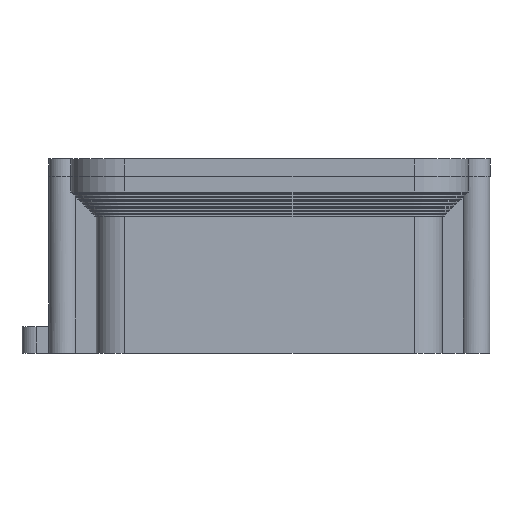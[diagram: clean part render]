
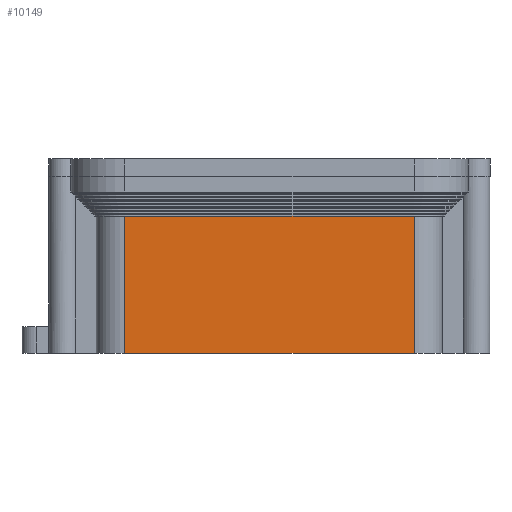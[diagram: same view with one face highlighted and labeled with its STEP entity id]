
A CAD part, left-side view. The second image highlights one B-rep face of the part: STEP entity #10149.
In plain terms, the highlighted planar face has unit normal (-1, 0, 0).
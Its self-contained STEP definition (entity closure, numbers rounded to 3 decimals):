
#3016 = VERTEX_POINT('',#3017);
#3017 = CARTESIAN_POINT('',(0.,8.,0.));
#3024 = EDGE_CURVE('',#3016,#3025,#3027,.T.);
#3025 = VERTEX_POINT('',#3026);
#3026 = CARTESIAN_POINT('',(0.,90.,0.));
#3027 = LINE('',#3028,#3029);
#3028 = CARTESIAN_POINT('',(0.,8.,0.));
#3029 = VECTOR('',#3030,1.);
#3030 = DIRECTION('',(-0.,1.,0.));
#10129 = VERTEX_POINT('',#10130);
#10130 = CARTESIAN_POINT('',(0.,8.,38.8));
#10137 = EDGE_CURVE('',#3016,#10129,#10138,.T.);
#10138 = LINE('',#10139,#10140);
#10139 = CARTESIAN_POINT('',(0.,8.,0.));
#10140 = VECTOR('',#10141,1.);
#10141 = DIRECTION('',(0.,0.,1.));
#10149 = ADVANCED_FACE('',(#10150),#10168,.F.);
#10150 = FACE_BOUND('',#10151,.F.);
#10151 = EDGE_LOOP('',(#10152,#10153,#10154,#10162));
#10152 = ORIENTED_EDGE('',*,*,#10137,.F.);
#10153 = ORIENTED_EDGE('',*,*,#3024,.T.);
#10154 = ORIENTED_EDGE('',*,*,#10155,.T.);
#10155 = EDGE_CURVE('',#3025,#10156,#10158,.T.);
#10156 = VERTEX_POINT('',#10157);
#10157 = CARTESIAN_POINT('',(0.,90.,38.8));
#10158 = LINE('',#10159,#10160);
#10159 = CARTESIAN_POINT('',(0.,90.,0.));
#10160 = VECTOR('',#10161,1.);
#10161 = DIRECTION('',(0.,0.,1.));
#10162 = ORIENTED_EDGE('',*,*,#10163,.F.);
#10163 = EDGE_CURVE('',#10129,#10156,#10164,.T.);
#10164 = LINE('',#10165,#10166);
#10165 = CARTESIAN_POINT('',(0.,28.5,38.8));
#10166 = VECTOR('',#10167,1.);
#10167 = DIRECTION('',(-0.,1.,0.));
#10168 = PLANE('',#10169);
#10169 = AXIS2_PLACEMENT_3D('',#10170,#10171,#10172);
#10170 = CARTESIAN_POINT('',(0.,8.,0.));
#10171 = DIRECTION('',(1.,0.,-0.));
#10172 = DIRECTION('',(0.,0.,1.));
